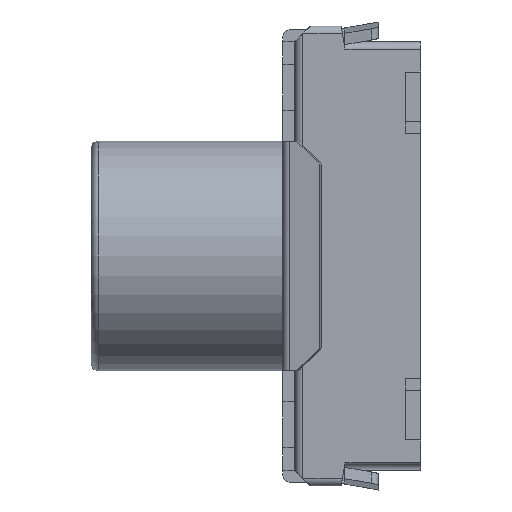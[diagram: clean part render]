
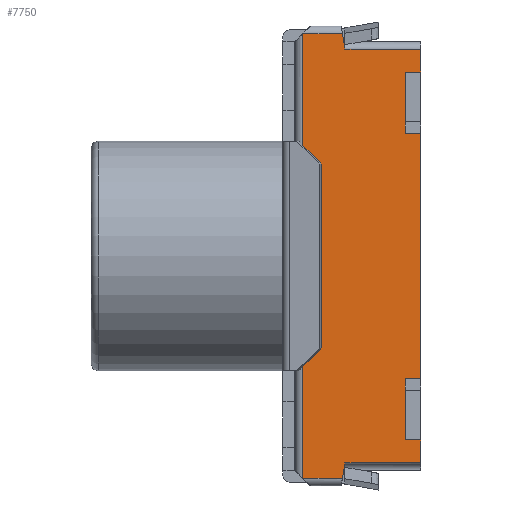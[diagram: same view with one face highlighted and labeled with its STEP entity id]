
A CAD part, left-side view. The second image highlights one B-rep face of the part: STEP entity #7750.
In plain terms, the highlighted planar face has unit normal (-1, 0, 0).
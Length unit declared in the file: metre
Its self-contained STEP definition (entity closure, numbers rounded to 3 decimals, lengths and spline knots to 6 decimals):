
#82 = CARTESIAN_POINT ( 'NONE',  ( -0.003, 0.00099, -0.0027 ) ) ;
#93 = VERTEX_POINT ( 'NONE', #7260 ) ;
#115 = CARTESIAN_POINT ( 'NONE',  ( -0.003, 0.00099, -0.0027 ) ) ;
#207 = EDGE_CURVE ( 'NONE', #7770, #3318, #4921, .T. ) ;
#359 = VECTOR ( 'NONE', #3116, 1. ) ;
#374 = VERTEX_POINT ( 'NONE', #2828 ) ;
#449 = DIRECTION ( 'NONE',  ( 0., 0., 1. ) ) ;
#455 = ORIENTED_EDGE ( 'NONE', *, *, #207, .T. ) ;
#541 = VECTOR ( 'NONE', #720, 1. ) ;
#586 = EDGE_CURVE ( 'NONE', #4317, #3012, #6024, .T. ) ;
#720 = DIRECTION ( 'NONE',  ( 0., -1., 0. ) ) ;
#839 = LINE ( 'NONE', #5092, #2355 ) ;
#849 = EDGE_CURVE ( 'NONE', #3318, #5772, #6782, .T. ) ;
#918 = ORIENTED_EDGE ( 'NONE', *, *, #3005, .T. ) ;
#973 = VECTOR ( 'NONE', #2741, 1. ) ;
#1040 = DIRECTION ( 'NONE',  ( 0., 1., 0. ) ) ;
#1056 = VERTEX_POINT ( 'NONE', #2388 ) ;
#1116 = LINE ( 'NONE', #1912, #541 ) ;
#1193 = CARTESIAN_POINT ( 'NONE',  ( -0.003, 0.00099, 0.0027 ) ) ;
#1274 = DIRECTION ( 'NONE',  ( 0., -1., 0. ) ) ;
#1388 = CARTESIAN_POINT ( 'NONE',  ( -0.003, 0., -0.0024 ) ) ;
#1415 = LINE ( 'NONE', #3986, #4328 ) ;
#1479 = PLANE ( 'NONE',  #5904 ) ;
#1517 = DIRECTION ( 'NONE',  ( 0., 1., 0. ) ) ;
#1526 = EDGE_CURVE ( 'NONE', #5576, #5959, #4432, .T. ) ;
#1552 = ORIENTED_EDGE ( 'NONE', *, *, #2758, .T. ) ;
#1773 = CARTESIAN_POINT ( 'NONE',  ( -0.003, 0., 0.0024 ) ) ;
#1802 = EDGE_CURVE ( 'NONE', #5772, #1056, #4158, .T. ) ;
#1818 = CARTESIAN_POINT ( 'NONE',  ( -0.003, 0., -0.003 ) ) ;
#1874 = VECTOR ( 'NONE', #7154, 1. ) ;
#1912 = CARTESIAN_POINT ( 'NONE',  ( -0.003, 0., -0.0024 ) ) ;
#2240 = EDGE_CURVE ( 'NONE', #5322, #6610, #4235, .T. ) ;
#2272 = EDGE_CURVE ( 'NONE', #6088, #7770, #839, .T. ) ;
#2276 = ORIENTED_EDGE ( 'NONE', *, *, #6503, .F. ) ;
#2355 = VECTOR ( 'NONE', #7426, 1. ) ;
#2388 = CARTESIAN_POINT ( 'NONE',  ( -0.003, 0.001023, -0.0029 ) ) ;
#2429 = CARTESIAN_POINT ( 'NONE',  ( -0.003, 0., 0.0016 ) ) ;
#2467 = EDGE_CURVE ( 'NONE', #4317, #1056, #1415, .T. ) ;
#2468 = VECTOR ( 'NONE', #1274, 1. ) ;
#2477 = VECTOR ( 'NONE', #1517, 1. ) ;
#2547 = VECTOR ( 'NONE', #4397, 1. ) ;
#2600 = CARTESIAN_POINT ( 'NONE',  ( -0.003, 0.00099, 0.0027 ) ) ;
#2641 = CARTESIAN_POINT ( 'NONE',  ( -0.003, 0.0002, 0.0024 ) ) ;
#2711 = DIRECTION ( 'NONE',  ( 1., 0., 0. ) ) ;
#2741 = DIRECTION ( 'NONE',  ( 0., 0., -1. ) ) ;
#2758 = EDGE_CURVE ( 'NONE', #3012, #4288, #3570, .T. ) ;
#2816 = ORIENTED_EDGE ( 'NONE', *, *, #1526, .T. ) ;
#2828 = CARTESIAN_POINT ( 'NONE',  ( -0.003, 0., -0.0016 ) ) ;
#2830 = VECTOR ( 'NONE', #5069, 1. ) ;
#2960 = VECTOR ( 'NONE', #1040, 1. ) ;
#3005 = EDGE_CURVE ( 'NONE', #93, #3849, #3854, .T. ) ;
#3012 = VERTEX_POINT ( 'NONE', #5612 ) ;
#3116 = DIRECTION ( 'NONE',  ( 0., -1., 0. ) ) ;
#3180 = CARTESIAN_POINT ( 'NONE',  ( -0.003, 0.0002, -0.0016 ) ) ;
#3293 = CARTESIAN_POINT ( 'NONE',  ( -0.003, 0.00164, 0.0029 ) ) ;
#3308 = DIRECTION ( 'NONE',  ( 0., 0., 1. ) ) ;
#3318 = VERTEX_POINT ( 'NONE', #6583 ) ;
#3333 = ORIENTED_EDGE ( 'NONE', *, *, #3879, .F. ) ;
#3423 = CARTESIAN_POINT ( 'NONE',  ( -0.003, 0., -0.0016 ) ) ;
#3570 = LINE ( 'NONE', #1818, #1874 ) ;
#3724 = ORIENTED_EDGE ( 'NONE', *, *, #5940, .T. ) ;
#3753 = VECTOR ( 'NONE', #6224, 1. ) ;
#3777 = VECTOR ( 'NONE', #449, 1. ) ;
#3796 = VECTOR ( 'NONE', #3308, 1. ) ;
#3839 = CARTESIAN_POINT ( 'NONE',  ( -0.003, 0.0002, 0.0016 ) ) ;
#3849 = VERTEX_POINT ( 'NONE', #5416 ) ;
#3854 = LINE ( 'NONE', #4989, #3753 ) ;
#3879 = EDGE_CURVE ( 'NONE', #5576, #4288, #1116, .T. ) ;
#3923 = LINE ( 'NONE', #1773, #7004 ) ;
#3976 = EDGE_CURVE ( 'NONE', #6088, #3849, #4683, .T. ) ;
#3986 = CARTESIAN_POINT ( 'NONE',  ( -0.003, 0.00104, -0.003 ) ) ;
#4158 = LINE ( 'NONE', #5064, #2547 ) ;
#4235 = LINE ( 'NONE', #2641, #2830 ) ;
#4288 = VERTEX_POINT ( 'NONE', #1388 ) ;
#4317 = VERTEX_POINT ( 'NONE', #115 ) ;
#4328 = VECTOR ( 'NONE', #5753, 1. ) ;
#4397 = DIRECTION ( 'NONE',  ( 0., -1., 0. ) ) ;
#4432 = LINE ( 'NONE', #5842, #3777 ) ;
#4467 = ORIENTED_EDGE ( 'NONE', *, *, #1802, .T. ) ;
#4473 = ORIENTED_EDGE ( 'NONE', *, *, #2272, .T. ) ;
#4489 = VECTOR ( 'NONE', #7325, 1. ) ;
#4549 = LINE ( 'NONE', #6900, #3796 ) ;
#4565 = LINE ( 'NONE', #3423, #2960 ) ;
#4639 = ORIENTED_EDGE ( 'NONE', *, *, #5101, .F. ) ;
#4653 = EDGE_CURVE ( 'NONE', #93, #5322, #3923, .T. ) ;
#4669 = ORIENTED_EDGE ( 'NONE', *, *, #2467, .F. ) ;
#4683 = LINE ( 'NONE', #2600, #4489 ) ;
#4690 = ORIENTED_EDGE ( 'NONE', *, *, #849, .T. ) ;
#4852 = CARTESIAN_POINT ( 'NONE',  ( -0.003, 0., 0.0016 ) ) ;
#4873 = CARTESIAN_POINT ( 'NONE',  ( -0.003, 0.0002, 0.0024 ) ) ;
#4921 = LINE ( 'NONE', #3293, #2477 ) ;
#4989 = CARTESIAN_POINT ( 'NONE',  ( -0.003, 0., -0.003 ) ) ;
#5020 = ORIENTED_EDGE ( 'NONE', *, *, #3976, .F. ) ;
#5021 = CARTESIAN_POINT ( 'NONE',  ( -0.003, 0.001023, 0.0029 ) ) ;
#5064 = CARTESIAN_POINT ( 'NONE',  ( -0.003, 0.00164, -0.0029 ) ) ;
#5069 = DIRECTION ( 'NONE',  ( 0., 0., -1. ) ) ;
#5078 = CARTESIAN_POINT ( 'NONE',  ( -0.003, 0.00154, -0.003 ) ) ;
#5092 = CARTESIAN_POINT ( 'NONE',  ( -0.003, 0.00104, 0.003 ) ) ;
#5101 = EDGE_CURVE ( 'NONE', #374, #5959, #4565, .T. ) ;
#5322 = VERTEX_POINT ( 'NONE', #4873 ) ;
#5369 = DIRECTION ( 'NONE',  ( 0., 1., 0. ) ) ;
#5416 = CARTESIAN_POINT ( 'NONE',  ( -0.003, 0., 0.0027 ) ) ;
#5426 = ORIENTED_EDGE ( 'NONE', *, *, #2240, .F. ) ;
#5576 = VERTEX_POINT ( 'NONE', #7127 ) ;
#5612 = CARTESIAN_POINT ( 'NONE',  ( -0.003, 0., -0.0027 ) ) ;
#5753 = DIRECTION ( 'NONE',  ( 0., 0.164, -0.986 ) ) ;
#5772 = VERTEX_POINT ( 'NONE', #5829 ) ;
#5829 = CARTESIAN_POINT ( 'NONE',  ( -0.003, 0.00154, -0.0029 ) ) ;
#5842 = CARTESIAN_POINT ( 'NONE',  ( -0.003, 0.0002, -0.00175 ) ) ;
#5904 = AXIS2_PLACEMENT_3D ( 'NONE', #6871, #2711, #6171 ) ;
#5940 = EDGE_CURVE ( 'NONE', #374, #6958, #4549, .T. ) ;
#5959 = VERTEX_POINT ( 'NONE', #3180 ) ;
#6024 = LINE ( 'NONE', #82, #2468 ) ;
#6088 = VERTEX_POINT ( 'NONE', #1193 ) ;
#6171 = DIRECTION ( 'NONE',  ( 0., 0., -1. ) ) ;
#6224 = DIRECTION ( 'NONE',  ( 0., 0., 1. ) ) ;
#6332 = ORIENTED_EDGE ( 'NONE', *, *, #586, .T. ) ;
#6503 = EDGE_CURVE ( 'NONE', #6610, #6958, #7675, .T. ) ;
#6576 = ORIENTED_EDGE ( 'NONE', *, *, #4653, .F. ) ;
#6583 = CARTESIAN_POINT ( 'NONE',  ( -0.003, 0.00154, 0.0029 ) ) ;
#6610 = VERTEX_POINT ( 'NONE', #3839 ) ;
#6782 = LINE ( 'NONE', #5078, #973 ) ;
#6871 = CARTESIAN_POINT ( 'NONE',  ( -0.003, 0.00164, -0.003 ) ) ;
#6900 = CARTESIAN_POINT ( 'NONE',  ( -0.003, 0., -0.003 ) ) ;
#6914 = FACE_OUTER_BOUND ( 'NONE', #7475, .T. ) ;
#6958 = VERTEX_POINT ( 'NONE', #2429 ) ;
#7004 = VECTOR ( 'NONE', #5369, 1. ) ;
#7127 = CARTESIAN_POINT ( 'NONE',  ( -0.003, 0.0002, -0.0024 ) ) ;
#7154 = DIRECTION ( 'NONE',  ( 0., 0., 1. ) ) ;
#7260 = CARTESIAN_POINT ( 'NONE',  ( -0.003, 0., 0.0024 ) ) ;
#7325 = DIRECTION ( 'NONE',  ( 0., -1., 0. ) ) ;
#7426 = DIRECTION ( 'NONE',  ( 0., 0.164, 0.986 ) ) ;
#7475 = EDGE_LOOP ( 'NONE', ( #3333, #2816, #4639, #3724, #2276, #5426, #6576, #918, #5020, #4473, #455, #4690, #4467, #4669, #6332, #1552 ) ) ;
#7675 = LINE ( 'NONE', #4852, #359 ) ;
#7750 = ADVANCED_FACE ( 'NONE', ( #6914 ), #1479, .F. ) ;
#7770 = VERTEX_POINT ( 'NONE', #5021 ) ;
